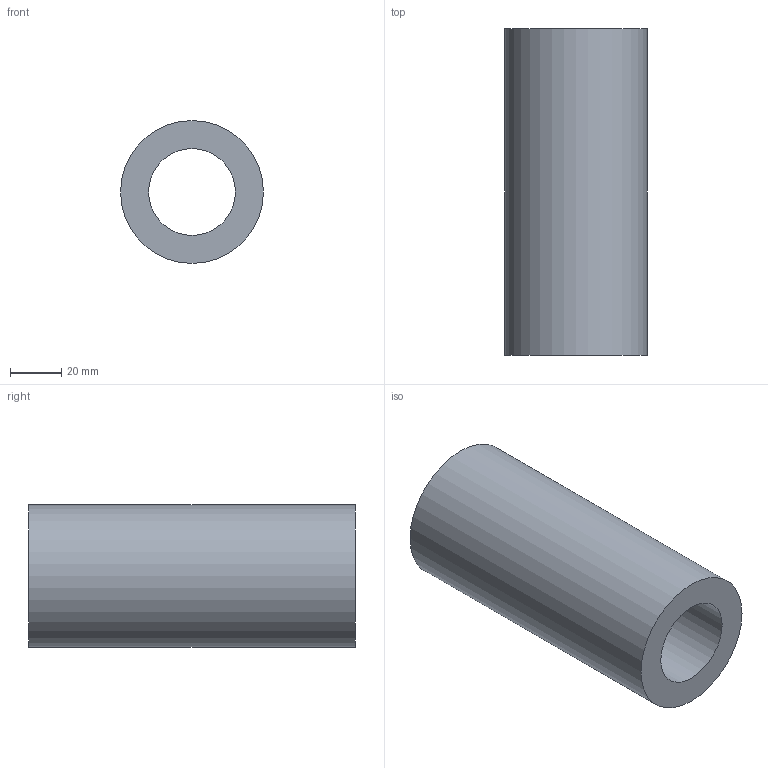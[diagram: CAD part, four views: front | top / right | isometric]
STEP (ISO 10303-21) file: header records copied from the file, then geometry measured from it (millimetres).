
FILE_DESCRIPTION(('Open CASCADE Model'),'2;1');
FILE_NAME('Open CASCADE Shape Model','2026-10-17T16:45:03',('Author'),( 'Open CASCADE'),'Open CASCADE STEP processor 8.0','build123d', 'Unknown');
FILE_SCHEMA(('AUTOMOTIVE_DESIGN { 1 0 10303 214 1 1 1 1 }'));
Length unit declared in the file: millimetre
Products named in the file (1): COMPOUND
Bounding box: 56 x 128 x 56 mm (x, y, z)
Volume: 199051.3 mm3; surface area: 39301.3 mm2
Topology: 1 solids, 1 shells, 4 faces, 6 edges, 4 vertices
Faces by surface type: cylinder 2, plane 2
Full cylindrical faces by diameter (mm): 34 x1, 56 x1
Entity records: 186 total; most frequent: DIRECTION 32, CARTESIAN_POINT 27, ORIENTED_EDGE 12, PCURVE 12, DEFINITIONAL_REPRESENTATION 12, LINE 10, VECTOR 10, AXIS2_PLACEMENT_3D 9
